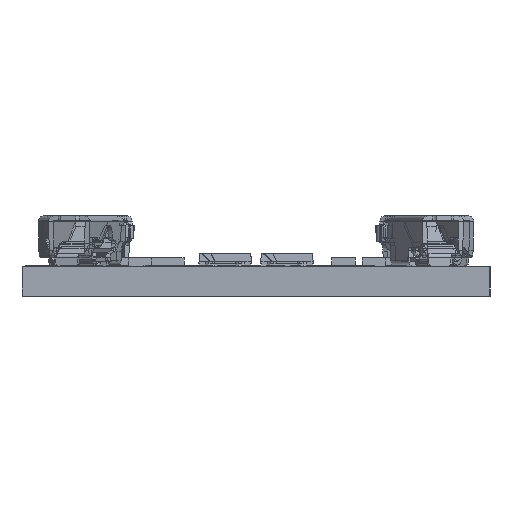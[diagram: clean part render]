
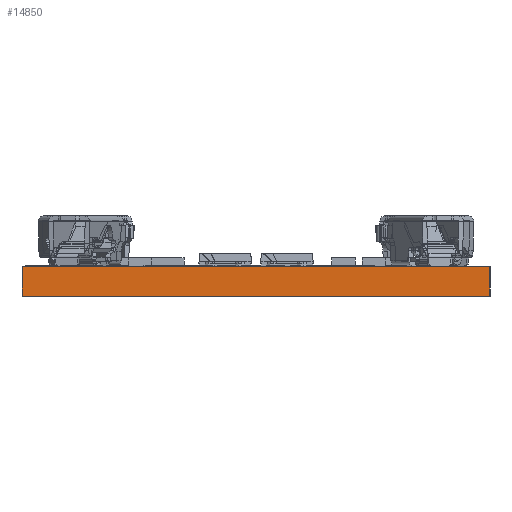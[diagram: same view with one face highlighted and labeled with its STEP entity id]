
A CAD part, left-side view. The second image highlights one B-rep face of the part: STEP entity #14850.
In plain terms, the highlighted planar face has unit normal (-1, 0, 0).
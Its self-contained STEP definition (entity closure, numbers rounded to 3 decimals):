
#760=CARTESIAN_POINT('',(-89.5,37.5,50.));
#770=DIRECTION('',(0.,1.,0.));
#780=VECTOR('',#770,0.039);
#790=LINE('',#760,#780);
#800=CARTESIAN_POINT('',(-89.5,37.5,50.));
#810=VERTEX_POINT('',#800);
#820=CARTESIAN_POINT('',(-89.5,62.5,50.));
#830=VERTEX_POINT('',#820);
#840=EDGE_CURVE('',#810,#830,#790,.T.);
#5050=CARTESIAN_POINT('',(-89.5,37.5,48.4));
#5060=VERTEX_POINT('',#5050);
#6930=CARTESIAN_POINT('',(-89.5,62.5,48.4));
#6940=VERTEX_POINT('',#6930);
#6970=CARTESIAN_POINT('',(-89.5,37.5,48.4));
#6980=DIRECTION('',(0.,1.,0.));
#6990=VECTOR('',#6980,0.039);
#7000=LINE('',#6970,#6990);
#7010=EDGE_CURVE('',#5060,#6940,#7000,.T.);
#9300=CARTESIAN_POINT('',(-89.5,37.5,50.));
#9310=DIRECTION('',(0.,0.,-1.));
#9320=VECTOR('',#9310,1.);
#9330=LINE('',#9300,#9320);
#9340=EDGE_CURVE('',#810,#5060,#9330,.T.);
#14560=CARTESIAN_POINT('',(-89.5,62.5,50.));
#14570=DIRECTION('',(0.,0.,-1.));
#14580=VECTOR('',#14570,1.);
#14590=LINE('',#14560,#14580);
#14600=EDGE_CURVE('',#830,#6940,#14590,.T.);
#14740=CARTESIAN_POINT('',(-89.5,37.5,50.));
#14750=DIRECTION('',(1.,0.,0.));
#14760=DIRECTION('',(0.,-1.,0.));
#14770=AXIS2_PLACEMENT_3D('',#14740,#14750,#14760);
#14780=PLANE('',#14770);
#14790=ORIENTED_EDGE('',*,*,#840,.T.);
#14800=ORIENTED_EDGE('',*,*,#9340,.F.);
#14810=ORIENTED_EDGE('',*,*,#7010,.F.);
#14820=ORIENTED_EDGE('',*,*,#14600,.T.);
#14830=EDGE_LOOP('',(#14820,#14810,#14800,#14790));
#14840=FACE_OUTER_BOUND('',#14830,.T.);
#14850=ADVANCED_FACE('',(#14840),#14780,.F.);
